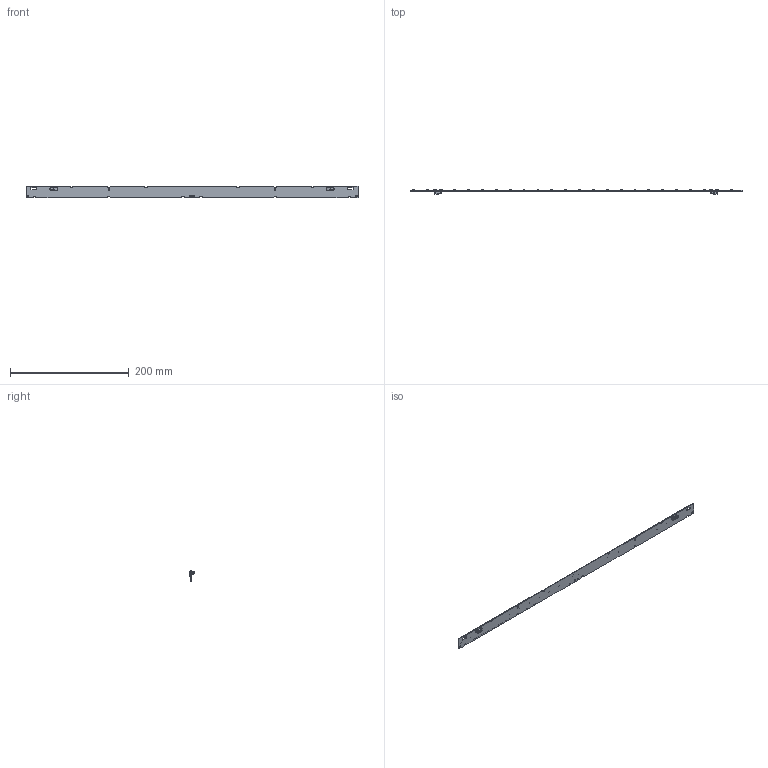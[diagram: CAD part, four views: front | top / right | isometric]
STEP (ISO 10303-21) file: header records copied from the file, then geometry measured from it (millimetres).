
FILE_DESCRIPTION((''),'2;1');
FILE_NAME('ASM_KONE_DIDOE_LOGO_ASM','2020-10-15T15:32:58',('msavic'),(''),'CREO PARAMETRIC BY PTC INC, 2016510','CREO PARAMETRIC BY PTC INC, 2016510','');
FILE_SCHEMA(('AUTOMOTIVE_DESIGN { 1 0 10303 214 1 1 1 1 }'));
Products named in the file (12): BAZA_WU-M-660; BC_CON_; PRT0001; VSO-LOGO-5MM_3; VSO-LOGO-5MM001_2_1; BUILT-IN_LED_MODULE-5MM004_2; BUILT-IN_LED_MODULE-5MM003_2; BUILT-IN_LED_MODULE-5MM002_2; BUILT-IN_LED_MODULE-5MM001_2; CE-ZEICHEN-6MM_2; CE-ZEICHEN-6MM001_2; ASM_KONE_DIDOE_LOGO_ASM
Assembly tree (36 placements, depth 2):
  ASM_KONE_DIDOE_LOGO_ASM
    BAZA_WU-M-660
    BC_CON_  x2
    PRT0001  x24
    VSO-LOGO-5MM_3
    VSO-LOGO-5MM001_2_1
    BUILT-IN_LED_MODULE-5MM004_2
    BUILT-IN_LED_MODULE-5MM003_2
    BUILT-IN_LED_MODULE-5MM002_2
    BUILT-IN_LED_MODULE-5MM001_2  x2
    CE-ZEICHEN-6MM_2
    CE-ZEICHEN-6MM001_2
Bounding box: 559 x 7.43 x 20 mm (x, y, z)
Volume: 17803.1 mm3; surface area: 25815.4 mm2
Topology: 36 solids, 36 shells, 6389 faces, 17934 edges, 11860 vertices
Faces by surface type: plane 4916, cylinder 1327, bspline 108, extrusion 38
Entity records: 124171 total; most frequent: CARTESIAN_POINT 19618, ORIENTED_EDGE 17786, DIRECTION 15584, EDGE_CURVE 8893, VECTOR 8480, LINE 8456, VERTEX_POINT 5918, AXIS2_PLACEMENT_3D 3534
